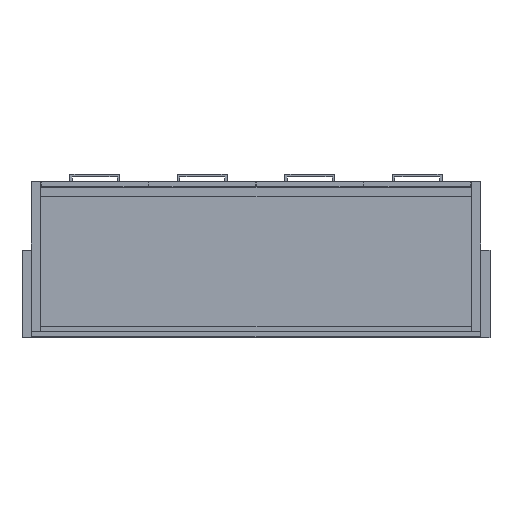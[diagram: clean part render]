
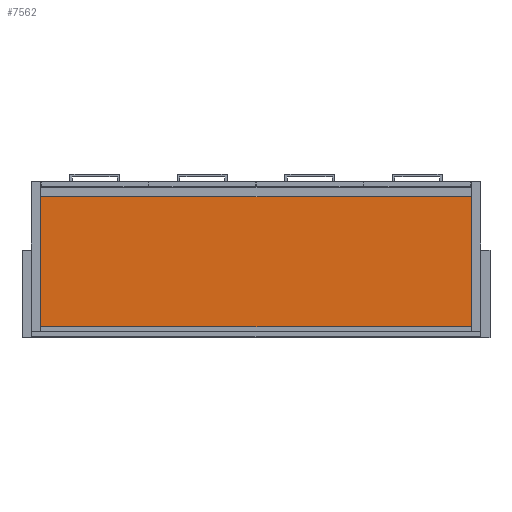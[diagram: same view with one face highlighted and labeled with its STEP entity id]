
A CAD part, front view. The second image highlights one B-rep face of the part: STEP entity #7562.
In plain terms, the highlighted planar face has unit normal (0, -1, 0).
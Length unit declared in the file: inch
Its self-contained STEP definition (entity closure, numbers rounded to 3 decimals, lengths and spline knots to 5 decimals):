
#1128=LINE('',#11941,#1789);
#1129=LINE('',#11943,#1790);
#1130=LINE('',#11945,#1791);
#1131=LINE('',#11946,#1792);
#1789=VECTOR('',#9963,0.3937);
#1790=VECTOR('',#9964,0.3937);
#1791=VECTOR('',#9965,0.3937);
#1792=VECTOR('',#9966,0.3937);
#2602=FACE_OUTER_BOUND('',#3177,.T.);
#3177=EDGE_LOOP('',(#6047,#6048,#6049,#6050));
#3934=VERTEX_POINT('',#11939);
#3935=VERTEX_POINT('',#11940);
#3936=VERTEX_POINT('',#11942);
#3937=VERTEX_POINT('',#11944);
#4688=EDGE_CURVE('',#3934,#3935,#1128,.T.);
#4689=EDGE_CURVE('',#3935,#3936,#1129,.T.);
#4690=EDGE_CURVE('',#3937,#3936,#1130,.T.);
#4691=EDGE_CURVE('',#3934,#3937,#1131,.T.);
#6047=ORIENTED_EDGE('',*,*,#4688,.T.);
#6048=ORIENTED_EDGE('',*,*,#4689,.T.);
#6049=ORIENTED_EDGE('',*,*,#4690,.F.);
#6050=ORIENTED_EDGE('',*,*,#4691,.F.);
#7107=PLANE('',#8477);
#7562=ADVANCED_FACE('',(#2602),#7107,.T.);
#8477=AXIS2_PLACEMENT_3D('',#11938,#9961,#9962);
#9961=DIRECTION('center_axis',(0.,-1.,0.));
#9962=DIRECTION('ref_axis',(1.,0.,0.));
#9963=DIRECTION('',(1.,0.,0.));
#9964=DIRECTION('',(0.,0.,1.));
#9965=DIRECTION('',(1.,0.,0.));
#9966=DIRECTION('',(0.,0.,1.));
#11938=CARTESIAN_POINT('Origin',(3.,0.,
1.75));
#11939=CARTESIAN_POINT('',(3.,0.,1.75));
#11940=CARTESIAN_POINT('',(72.,0.,1.75));
#11941=CARTESIAN_POINT('',(3.,0.,1.75));
#11942=CARTESIAN_POINT('',(72.,0.,22.625));
#11943=CARTESIAN_POINT('',(72.,0.,1.75));
#11944=CARTESIAN_POINT('',(3.,0.,22.625));
#11945=CARTESIAN_POINT('',(3.,0.,22.625));
#11946=CARTESIAN_POINT('',(3.,0.,1.75));
